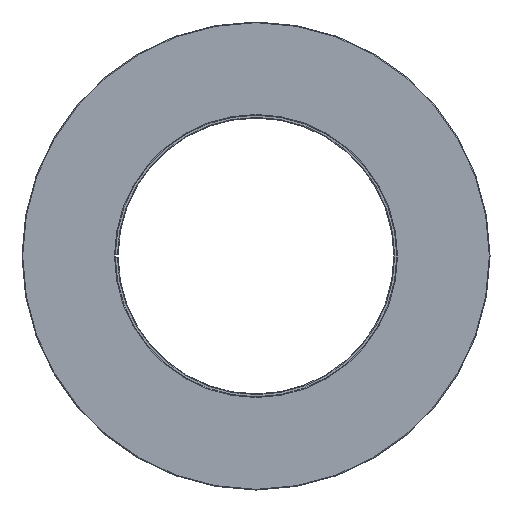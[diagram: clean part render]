
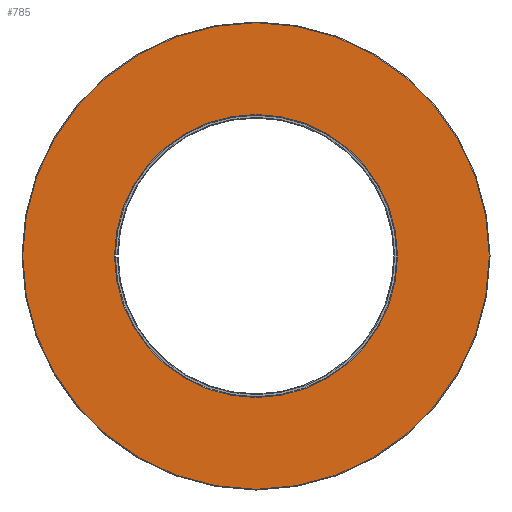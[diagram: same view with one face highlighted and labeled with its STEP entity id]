
A CAD part, left-side view. The second image highlights one B-rep face of the part: STEP entity #785.
In plain terms, the highlighted planar face has unit normal (-1, 0, 0).
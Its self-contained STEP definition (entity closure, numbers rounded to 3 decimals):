
#785 = ADVANCED_FACE( '', ( #2462, #2463 ), #2464, .T. );
#2462 = FACE_OUTER_BOUND( '', #4900, .T. );
#2463 = FACE_BOUND( '', #4901, .T. );
#2464 = PLANE( '', #4902 );
#4900 = EDGE_LOOP( '', ( #9693 ) );
#4901 = EDGE_LOOP( '', ( #9694 ) );
#4902 = AXIS2_PLACEMENT_3D( '', #9695, #9696, #9697 );
#9693 = ORIENTED_EDGE( '', *, *, #12109, .F. );
#9694 = ORIENTED_EDGE( '', *, *, #12110, .T. );
#9695 = CARTESIAN_POINT( '', ( -164., 258.25, 0. ) );
#9696 = DIRECTION( '', ( -1., 0., 0. ) );
#9697 = DIRECTION( '', ( 0., 0., 1. ) );
#12109 = EDGE_CURVE( '', #12384, #12384, #12385, .F. );
#12110 = EDGE_CURVE( '', #12386, #12386, #12387, .T. );
#12384 = VERTEX_POINT( '', #12683 );
#12385 = CIRCLE( '', #12684, 321.5 );
#12386 = VERTEX_POINT( '', #12685 );
#12387 = CIRCLE( '', #12686, 195. );
#12683 = CARTESIAN_POINT( '', ( -164., 0., 321.5 ) );
#12684 = AXIS2_PLACEMENT_3D( '', #13011, #13012, #13013 );
#12685 = CARTESIAN_POINT( '', ( -164., 195., 0. ) );
#12686 = AXIS2_PLACEMENT_3D( '', #13014, #13015, #13016 );
#13011 = CARTESIAN_POINT( '', ( -164., 0., 0. ) );
#13012 = DIRECTION( '', ( -1., 0., 0. ) );
#13013 = DIRECTION( '', ( 0., 0., 1. ) );
#13014 = CARTESIAN_POINT( '', ( -164., 0., 0. ) );
#13015 = DIRECTION( '', ( 1., 0., 0. ) );
#13016 = DIRECTION( '', ( 0., 1., 0. ) );
